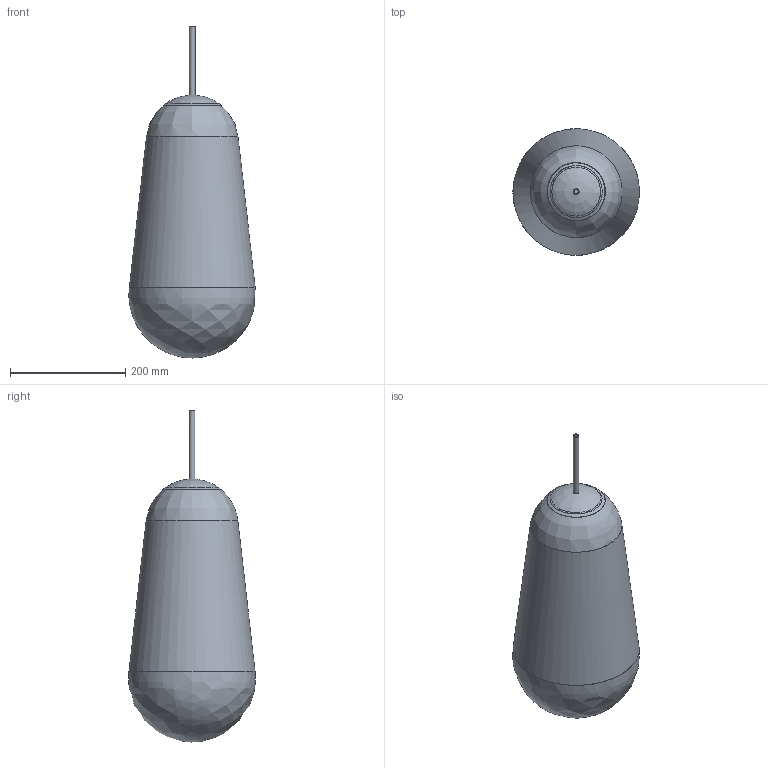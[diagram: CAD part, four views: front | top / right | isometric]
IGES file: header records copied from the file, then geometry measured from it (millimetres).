
Start section: SolidWorks IGES file using NURBS representation for surfaces
Global section: file name: Z:\Modele 3D_WWW\_CAMELEON\KLOSZE I OPRAWY WWW\Cameleon-PEAR\8532\PEAR_L_8532.IGS; native system: SolidWorks 2021; preprocessor: SolidWorks 2021; author: gabriela.tworek; date: 211223.113509; units: millimetre
Bounding box: 219 x 219.62 x 575.7 mm (x, y, z)
Surface area: 569100.5 mm2 (no closed solid volume)
Topology: 0 solids, 0 shells, 25 faces, 115 edges, 100 vertices
Faces by surface type: bspline 25
